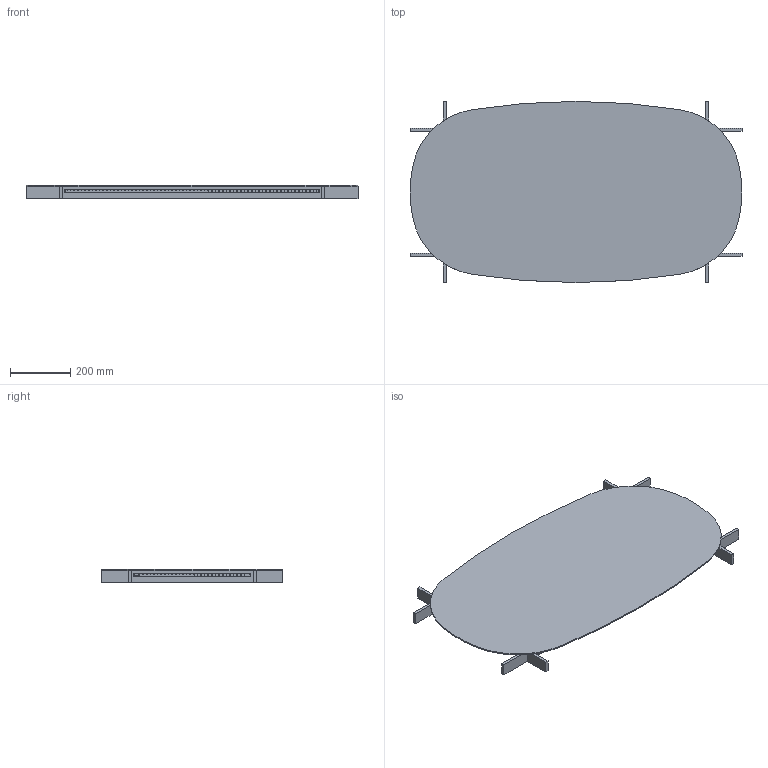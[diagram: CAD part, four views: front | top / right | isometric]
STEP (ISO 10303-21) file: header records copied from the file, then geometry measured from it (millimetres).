
FILE_DESCRIPTION (( 'STEP AP203' ), '1' );
FILE_NAME ('SPMK110.STEP', '2023-03-31T09:36:55', ( '' ), ( '' ), 'SwSTEP 2.0', 'SolidWorks 2023', '' );
FILE_SCHEMA (( 'CONFIG_CONTROL_DESIGN' ));
Length unit declared in the file: millimetre
Products named in the file (10): piano orizzontale 110X60; piastra fix 100x60; CONNETTORE; piano verticale 110X60; FASCIA LED 2; FASCIA LED 3; specchio 110x60; trasformatore 100x60; FIX ANGOLARE 110X60; SPMK110
Assembly tree (15 placements, depth 2):
  SPMK110
    specchio 110x60
    piano orizzontale 110X60  x2
    piano verticale 110X60  x2
    FIX ANGOLARE 110X60
    CONNETTORE  x3
    trasformatore 100x60
    FASCIA LED 2  x2
    FASCIA LED 3  x2
    piastra fix 100x60
Bounding box: 1100 x 600 x 44 mm (x, y, z)
Volume: 4191015.5 mm3; surface area: 2486936.6 mm2
Topology: 15 solids, 15 shells, 2038 faces, 5416 edges, 3603 vertices
Faces by surface type: plane 1163, cylinder 862, torus 11, sphere 2
Full cylindrical faces by diameter (mm): 2 x25, 3 x13, 4 x2
Entity records: 35078 total; most frequent: DIRECTION 5972, CARTESIAN_POINT 5894, ORIENTED_EDGE 5686, EDGE_CURVE 2843, AXIS2_PLACEMENT_3D 2024, VECTOR 1924, LINE 1924, VERTEX_POINT 1914
